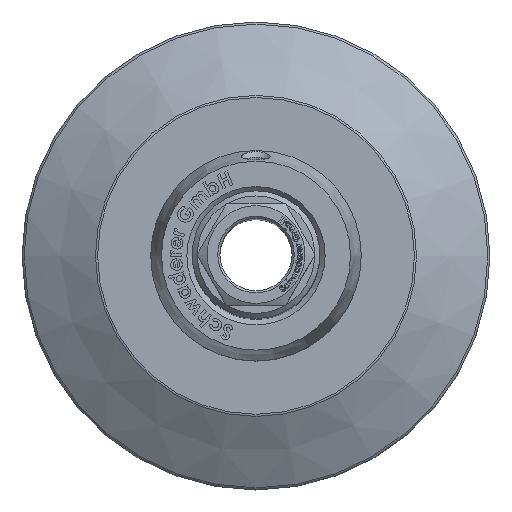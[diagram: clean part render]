
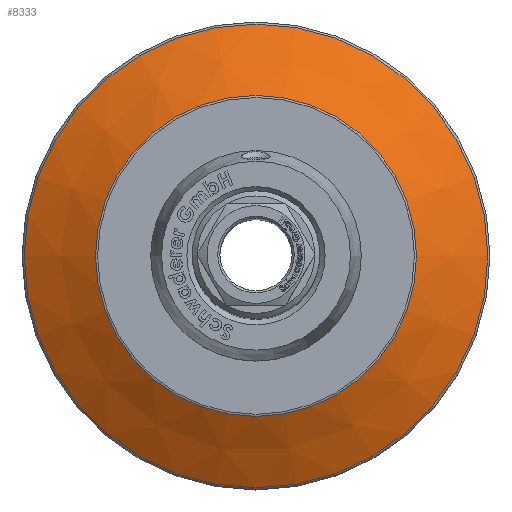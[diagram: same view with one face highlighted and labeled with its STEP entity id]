
A CAD part, top view. The second image highlights one B-rep face of the part: STEP entity #8333.
In plain terms, the highlighted conical face has half-angle 60.255 degrees and reference radius 46.25 mm.
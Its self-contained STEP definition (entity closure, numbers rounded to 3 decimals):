
#2633=CONICAL_SURFACE('',#8819,46.25,60.255);
#2651=FACE_BOUND('',#3217,.T.);
#2736=FACE_OUTER_BOUND('',#3216,.T.);
#3216=EDGE_LOOP('',(#5891));
#3217=EDGE_LOOP('',(#5892));
#3778=CIRCLE('',#8817,37.731);
#3780=CIRCLE('',#8820,54.496);
#3845=VERTEX_POINT('',#10644);
#3847=VERTEX_POINT('',#10649);
#4669=EDGE_CURVE('',#3845,#3845,#3778,.T.);
#4671=EDGE_CURVE('',#3847,#3847,#3780,.T.);
#5891=ORIENTED_EDGE('',*,*,#4671,.F.);
#5892=ORIENTED_EDGE('',*,*,#4669,.F.);
#8333=ADVANCED_FACE('',(#2736,#2651),#2633,.T.);
#8817=AXIS2_PLACEMENT_3D('',#10645,#9178,#9179);
#8819=AXIS2_PLACEMENT_3D('',#10648,#9182,#9183);
#8820=AXIS2_PLACEMENT_3D('',#10650,#9184,#9185);
#9178=DIRECTION('center_axis',(0.,0.,
1.));
#9179=DIRECTION('ref_axis',(-1.,0.,0.));
#9182=DIRECTION('center_axis',(0.,0.,-1.));
#9183=DIRECTION('ref_axis',(1.,0.,0.));
#9184=DIRECTION('center_axis',(0.,0.,
-1.));
#9185=DIRECTION('ref_axis',(-1.,0.,0.));
#10644=CARTESIAN_POINT('',(37.731,0.,-23.999));
#10645=CARTESIAN_POINT('Origin',(0.,0.,
-23.999));
#10648=CARTESIAN_POINT('Origin',(0.,0.,-28.867));
#10649=CARTESIAN_POINT('',(54.496,0.,-33.579));
#10650=CARTESIAN_POINT('Origin',(0.,0.,
-33.579));
